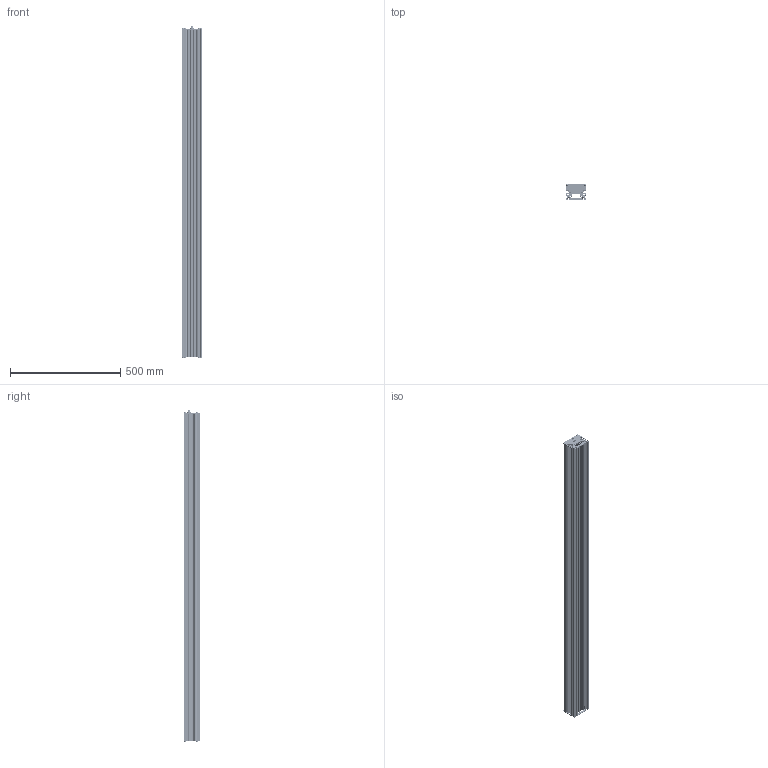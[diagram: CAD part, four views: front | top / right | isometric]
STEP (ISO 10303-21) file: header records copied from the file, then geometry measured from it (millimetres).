
FILE_DESCRIPTION (( 'STEP AP214' ), '1' );
FILE_NAME ('MLLT157.5-XXX.STEP', '2026-05-26T02:40:23', ( '' ), ( '' ), 'SwSTEP 2.0', 'SolidWorks 2025', '' );
FILE_SCHEMA (( 'AUTOMOTIVE_DESIGN' ));
Length unit declared in the file: inch
Products named in the file (20): 10-32 x .750_92949A269; 2060-401; Extrusion MLLT_End; 2500-00565C-BT; 3535_holder_10568; Standard Lens; MLL111.5-3535; MLL111.5-3535_PCB-LL111.5; FSW 4.5-0.2 Connector; 2500-00565C-SBN; xpg3; LED-Lens Holder and Lens; Extrusion MLLT_57.5; Extrusion MLLT_End M12 B&L-code; 2500-00565C-SB; 2610-00066-DOME; SD-MLLTxxxx_57.5; 2500-00565C_ASM; 2500-00565C; MLLT157.5-XXX
Assembly tree (44 placements, depth 6):
  MLLT157.5-XXX
    Extrusion MLLT_57.5
    Extrusion MLLT_End M12 B&L-code
    Extrusion MLLT_End
    10-32 x .750_92949A269  x8
    FSW 4.5-0.2 Connector
    MLL111.5-3535  x5
      MLL111.5-3535_PCB-LL111.5
      LED-Lens Holder and Lens
        3535_holder_10568
        xpg3
          2500-00565C_ASM
            2500-00565C
            2500-00565C-BT
            2500-00565C-SBN
            2500-00565C-SB
          2610-00066-DOME
        Standard Lens
      2060-401
    SD-MLLTxxxx_57.5
Bounding box: 95.25 x 72.5 x 1507.87 mm (x, y, z)
Volume: 3057519.8 mm3; surface area: 2298258.9 mm2
Topology: 581 solids, 581 shells, 14282 faces, 36777 edges, 23862 vertices
Faces by surface type: plane 8797, cylinder 2174, cone 1767, bspline 1450, torus 66, sphere 28
Full cylindrical faces by diameter (mm): 0.05 x60, 0.063 x120, 1 x65, 2.25 x20, 2.261 x20, 4.178 x184, 4.826 x176, 5.105 x8, 5.944 x60, 8 x1, 8.3 x1, 9 x1, 9.169 x8, 9.4 x1, 9.45 x2, 9.9 x1, 10 x1, 10.5 x1, 11.4 x1, 12 x1, 13.5 x2, 19.71 x60
Entity records: 38931 total; most frequent: CARTESIAN_POINT 11741, DIRECTION 5242, ORIENTED_EDGE 5208, EDGE_CURVE 2604, AXIS2_PLACEMENT_3D 1904, VERTEX_POINT 1789, LINE 1434, VECTOR 1434
